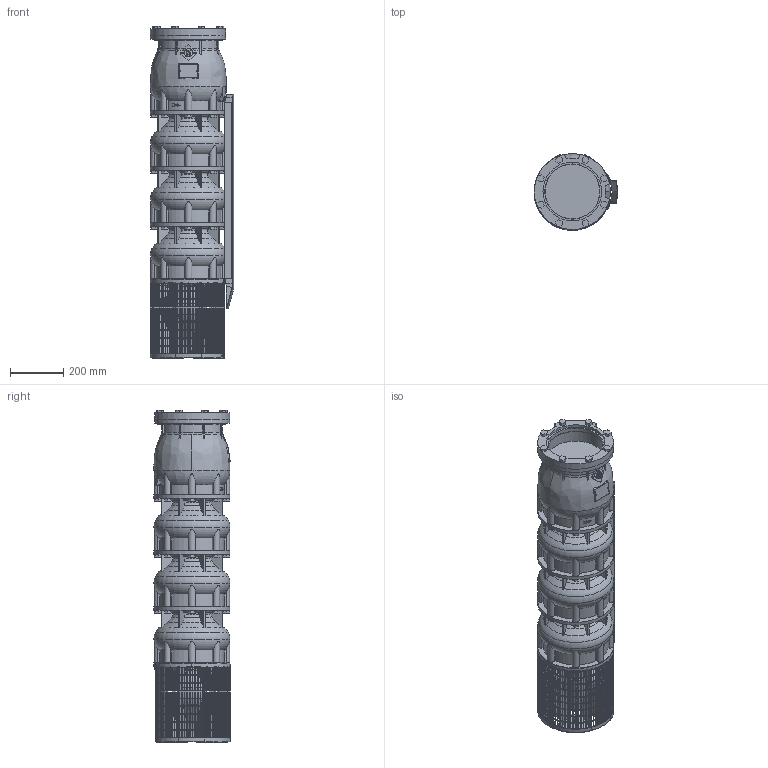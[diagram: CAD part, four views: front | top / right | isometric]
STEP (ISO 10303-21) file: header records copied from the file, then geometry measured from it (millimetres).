
FILE_DESCRIPTION(/* description */ ('-'),/* implementation_level */ '2;1');
FILE_NAME(/* name */ 'VSI344-3_WF_M10-50_DME',/* time_stamp */ '2026-01-21T11:02:34+01:00',/* author */ ('Simonelli M.'),/* organization */ ('Franklin Electric Srl'),/* preprocessor_version */ 'ST-DEVELOPER v18.102',/* originating_system */ 'Solid Edge',/* authorisation */ 'Unknown');
FILE_SCHEMA (('AUTOMOTIVE_DESIGN {1 0 10303 214 3 1 1}'));
Products named in the file (12): VSI344-3_WF_M10-50_DME; VSI344-454_testata; VSI344-454_supporto; VSI344-454_filtro_A; VSI344-454_filtro_B; VSI344-454_terminale_top_copricavo_medio; VSI344-454_terminale_bottom_copricavo_medio; MID 344-3; VSI344_diffusore; M5X8_UNI7687; VSI184-254_giunto_10×10; VSI344-454_flangia_testata
Assembly tree (22 placements, depth 2):
  VSI344-3_WF_M10-50_DME
    VSI344-454_testata
    VSI344-454_supporto
    VSI344-454_filtro_A
    VSI344-454_filtro_B
    VSI344-454_terminale_top_copricavo_medio
    VSI344-454_terminale_bottom_copricavo_medio
    MID 344-3
    VSI344_diffusore  x3
    M5X8_UNI7687  x10
    VSI184-254_giunto_10×10
    VSI344-454_flangia_testata
Bounding box: 314.3 x 286 x 1245 mm (x, y, z)
Volume: 48444351.8 mm3; surface area: 2854676.6 mm2
Topology: 87 solids, 87 shells, 4172 faces, 11742 edges, 7800 vertices
Faces by surface type: plane 3377, cylinder 467, torus 218, cone 85, bspline 15, sphere 10
Full cylindrical faces by diameter (mm): 5 x10, 16 x8, 35 x1, 65 x1, 69 x1, 150 x1, 207 x1, 220.5 x1, 285 x3
Entity records: 124569 total; most frequent: CARTESIAN_POINT 28073, ORIENTED_EDGE 20264, DIRECTION 19362, EDGE_CURVE 10132, VERTEX_POINT 6757, AXIS2_PLACEMENT_3D 6539, LINE 6284, VECTOR 6284
